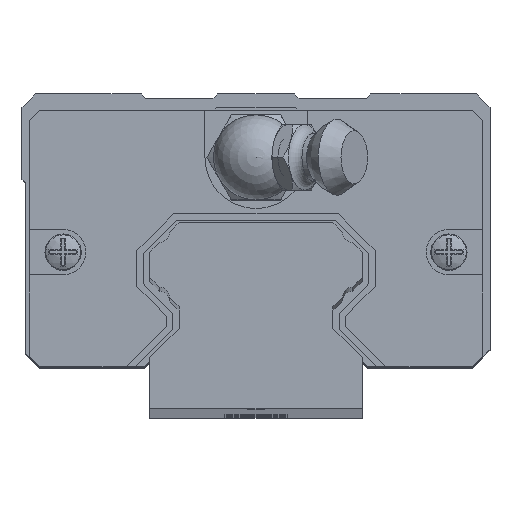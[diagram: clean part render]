
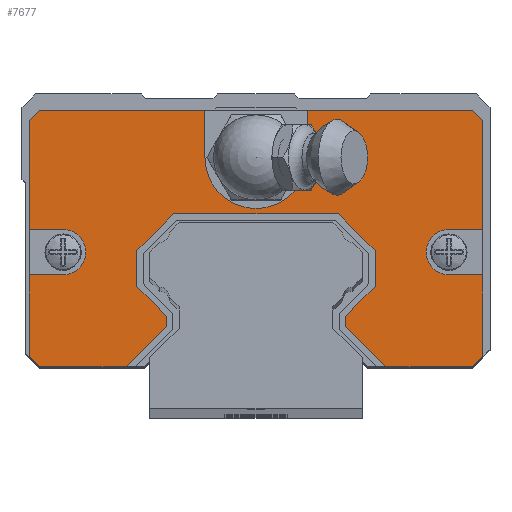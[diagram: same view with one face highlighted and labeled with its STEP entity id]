
A CAD part, top view. The second image highlights one B-rep face of the part: STEP entity #7677.
In plain terms, the highlighted planar face has unit normal (0, 0, 1).
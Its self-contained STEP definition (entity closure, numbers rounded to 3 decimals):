
#582=LINE('',#12337,#1392);
#586=LINE('',#12345,#1396);
#587=LINE('',#12347,#1397);
#588=LINE('',#12349,#1398);
#589=LINE('',#12351,#1399);
#590=LINE('',#12353,#1400);
#591=LINE('',#12355,#1401);
#592=LINE('',#12357,#1402);
#593=LINE('',#12359,#1403);
#594=LINE('',#12361,#1404);
#595=LINE('',#12363,#1405);
#596=LINE('',#12365,#1406);
#597=LINE('',#12367,#1407);
#598=LINE('',#12369,#1408);
#599=LINE('',#12371,#1409);
#600=LINE('',#12373,#1410);
#601=LINE('',#12377,#1411);
#602=LINE('',#12379,#1412);
#603=LINE('',#12381,#1413);
#604=LINE('',#12383,#1414);
#605=LINE('',#12385,#1415);
#606=LINE('',#12389,#1416);
#607=LINE('',#12391,#1417);
#608=LINE('',#12393,#1418);
#609=LINE('',#12395,#1419);
#610=LINE('',#12396,#1420);
#611=LINE('',#12398,#1421);
#612=LINE('',#12400,#1422);
#613=LINE('',#12401,#1423);
#1392=VECTOR('',#10013,1000.);
#1396=VECTOR('',#10019,1000.);
#1397=VECTOR('',#10020,1000.);
#1398=VECTOR('',#10021,1000.);
#1399=VECTOR('',#10022,1000.);
#1400=VECTOR('',#10023,1000.);
#1401=VECTOR('',#10024,1000.);
#1402=VECTOR('',#10025,1000.);
#1403=VECTOR('',#10026,1000.);
#1404=VECTOR('',#10027,1000.);
#1405=VECTOR('',#10028,1000.);
#1406=VECTOR('',#10029,1000.);
#1407=VECTOR('',#10030,1000.);
#1408=VECTOR('',#10031,1000.);
#1409=VECTOR('',#10032,1000.);
#1410=VECTOR('',#10033,1000.);
#1411=VECTOR('',#10036,1000.);
#1412=VECTOR('',#10037,1000.);
#1413=VECTOR('',#10038,1000.);
#1414=VECTOR('',#10039,1000.);
#1415=VECTOR('',#10040,1000.);
#1416=VECTOR('',#10043,1000.);
#1417=VECTOR('',#10044,1000.);
#1418=VECTOR('',#10045,1000.);
#1419=VECTOR('',#10046,1000.);
#1420=VECTOR('',#10047,1000.);
#1421=VECTOR('',#10048,1000.);
#1422=VECTOR('',#10049,1000.);
#1423=VECTOR('',#10050,1000.);
#1881=PLANE('',#8342);
#2511=FACE_OUTER_BOUND('',#3010,.T.);
#3010=EDGE_LOOP('',(#6673,#6674,#6675,#6676,#6677,#6678,#6679,#6680,#6681,
#6682,#6683,#6684,#6685,#6686,#6687,#6688,#6689,#6690,#6691,#6692,#6693,
#6694,#6695,#6696,#6697,#6698,#6699,#6700,#6701,#6702,#6703,#6704));
#3361=CIRCLE('',#8340,2.134);
#3362=CIRCLE('',#8343,2.134);
#3363=CIRCLE('',#8344,4.8);
#3930=VERTEX_POINT('',#12321);
#3931=VERTEX_POINT('',#12323);
#3936=VERTEX_POINT('',#12334);
#3937=VERTEX_POINT('',#12336);
#3940=VERTEX_POINT('',#12344);
#3941=VERTEX_POINT('',#12346);
#3942=VERTEX_POINT('',#12348);
#3943=VERTEX_POINT('',#12350);
#3944=VERTEX_POINT('',#12352);
#3945=VERTEX_POINT('',#12354);
#3946=VERTEX_POINT('',#12356);
#3947=VERTEX_POINT('',#12358);
#3948=VERTEX_POINT('',#12360);
#3949=VERTEX_POINT('',#12362);
#3950=VERTEX_POINT('',#12364);
#3951=VERTEX_POINT('',#12366);
#3952=VERTEX_POINT('',#12368);
#3953=VERTEX_POINT('',#12370);
#3954=VERTEX_POINT('',#12372);
#3955=VERTEX_POINT('',#12374);
#3956=VERTEX_POINT('',#12376);
#3957=VERTEX_POINT('',#12378);
#3958=VERTEX_POINT('',#12380);
#3959=VERTEX_POINT('',#12382);
#3960=VERTEX_POINT('',#12384);
#3961=VERTEX_POINT('',#12386);
#3962=VERTEX_POINT('',#12388);
#3963=VERTEX_POINT('',#12390);
#3964=VERTEX_POINT('',#12392);
#3965=VERTEX_POINT('',#12394);
#3966=VERTEX_POINT('',#12397);
#3967=VERTEX_POINT('',#12399);
#4889=EDGE_CURVE('',#3930,#3931,#3361,.T.);
#4895=EDGE_CURVE('',#3937,#3936,#582,.T.);
#4899=EDGE_CURVE('',#3936,#3940,#586,.T.);
#4900=EDGE_CURVE('',#3940,#3941,#587,.T.);
#4901=EDGE_CURVE('',#3941,#3942,#588,.T.);
#4902=EDGE_CURVE('',#3942,#3943,#589,.T.);
#4903=EDGE_CURVE('',#3943,#3944,#590,.T.);
#4904=EDGE_CURVE('',#3944,#3945,#591,.T.);
#4905=EDGE_CURVE('',#3945,#3946,#592,.T.);
#4906=EDGE_CURVE('',#3946,#3947,#593,.T.);
#4907=EDGE_CURVE('',#3947,#3948,#594,.T.);
#4908=EDGE_CURVE('',#3948,#3949,#595,.T.);
#4909=EDGE_CURVE('',#3949,#3950,#596,.T.);
#4910=EDGE_CURVE('',#3950,#3951,#597,.T.);
#4911=EDGE_CURVE('',#3951,#3952,#598,.T.);
#4912=EDGE_CURVE('',#3952,#3953,#599,.T.);
#4913=EDGE_CURVE('',#3953,#3954,#600,.T.);
#4914=EDGE_CURVE('',#3954,#3955,#3362,.T.);
#4915=EDGE_CURVE('',#3955,#3956,#601,.T.);
#4916=EDGE_CURVE('',#3956,#3957,#602,.T.);
#4917=EDGE_CURVE('',#3957,#3958,#603,.T.);
#4918=EDGE_CURVE('',#3958,#3959,#604,.T.);
#4919=EDGE_CURVE('',#3959,#3960,#605,.T.);
#4920=EDGE_CURVE('',#3960,#3961,#3363,.T.);
#4921=EDGE_CURVE('',#3961,#3962,#606,.T.);
#4922=EDGE_CURVE('',#3962,#3963,#607,.T.);
#4923=EDGE_CURVE('',#3963,#3964,#608,.T.);
#4924=EDGE_CURVE('',#3964,#3965,#609,.T.);
#4925=EDGE_CURVE('',#3965,#3931,#610,.T.);
#4926=EDGE_CURVE('',#3930,#3966,#611,.T.);
#4927=EDGE_CURVE('',#3966,#3967,#612,.T.);
#4928=EDGE_CURVE('',#3967,#3937,#613,.T.);
#6673=ORIENTED_EDGE('',*,*,#4899,.T.);
#6674=ORIENTED_EDGE('',*,*,#4900,.T.);
#6675=ORIENTED_EDGE('',*,*,#4901,.T.);
#6676=ORIENTED_EDGE('',*,*,#4902,.T.);
#6677=ORIENTED_EDGE('',*,*,#4903,.T.);
#6678=ORIENTED_EDGE('',*,*,#4904,.T.);
#6679=ORIENTED_EDGE('',*,*,#4905,.T.);
#6680=ORIENTED_EDGE('',*,*,#4906,.T.);
#6681=ORIENTED_EDGE('',*,*,#4907,.T.);
#6682=ORIENTED_EDGE('',*,*,#4908,.T.);
#6683=ORIENTED_EDGE('',*,*,#4909,.T.);
#6684=ORIENTED_EDGE('',*,*,#4910,.T.);
#6685=ORIENTED_EDGE('',*,*,#4911,.T.);
#6686=ORIENTED_EDGE('',*,*,#4912,.T.);
#6687=ORIENTED_EDGE('',*,*,#4913,.T.);
#6688=ORIENTED_EDGE('',*,*,#4914,.T.);
#6689=ORIENTED_EDGE('',*,*,#4915,.T.);
#6690=ORIENTED_EDGE('',*,*,#4916,.T.);
#6691=ORIENTED_EDGE('',*,*,#4917,.T.);
#6692=ORIENTED_EDGE('',*,*,#4918,.T.);
#6693=ORIENTED_EDGE('',*,*,#4919,.T.);
#6694=ORIENTED_EDGE('',*,*,#4920,.T.);
#6695=ORIENTED_EDGE('',*,*,#4921,.T.);
#6696=ORIENTED_EDGE('',*,*,#4922,.T.);
#6697=ORIENTED_EDGE('',*,*,#4923,.T.);
#6698=ORIENTED_EDGE('',*,*,#4924,.T.);
#6699=ORIENTED_EDGE('',*,*,#4925,.T.);
#6700=ORIENTED_EDGE('',*,*,#4889,.F.);
#6701=ORIENTED_EDGE('',*,*,#4926,.T.);
#6702=ORIENTED_EDGE('',*,*,#4927,.T.);
#6703=ORIENTED_EDGE('',*,*,#4928,.T.);
#6704=ORIENTED_EDGE('',*,*,#4895,.T.);
#7677=ADVANCED_FACE('',(#2511),#1881,.F.);
#8340=AXIS2_PLACEMENT_3D('',#12324,#10004,#10005);
#8342=AXIS2_PLACEMENT_3D('',#12343,#10017,#10018);
#8343=AXIS2_PLACEMENT_3D('',#12375,#10034,#10035);
#8344=AXIS2_PLACEMENT_3D('',#12387,#10041,#10042);
#10004=DIRECTION('center_axis',(0.,0.,1.));
#10005=DIRECTION('ref_axis',(1.,0.,0.));
#10013=DIRECTION('',(1.,0.,0.));
#10017=DIRECTION('center_axis',(0.,0.,-1.));
#10018=DIRECTION('ref_axis',(-1.,0.,0.));
#10019=DIRECTION('',(0.707,0.707,0.));
#10020=DIRECTION('',(0.,1.,0.));
#10021=DIRECTION('',(-0.707,0.707,0.));
#10022=DIRECTION('',(0.,1.,0.));
#10023=DIRECTION('',(0.707,0.707,0.));
#10024=DIRECTION('',(1.,0.,0.));
#10025=DIRECTION('',(0.707,-0.707,0.));
#10026=DIRECTION('',(0.,-1.,0.));
#10027=DIRECTION('',(-0.707,-0.707,0.));
#10028=DIRECTION('',(0.,-1.,0.));
#10029=DIRECTION('',(0.707,-0.707,0.));
#10030=DIRECTION('',(1.,0.,0.));
#10031=DIRECTION('',(0.707,0.707,0.));
#10032=DIRECTION('',(0.,1.,0.));
#10033=DIRECTION('',(-1.,0.,0.));
#10034=DIRECTION('center_axis',(0.,0.,-1.));
#10035=DIRECTION('ref_axis',(-1.,0.,0.));
#10036=DIRECTION('',(1.,0.,0.));
#10037=DIRECTION('',(0.,1.,0.));
#10038=DIRECTION('',(-0.707,0.707,0.));
#10039=DIRECTION('',(-1.,0.,0.));
#10040=DIRECTION('',(0.,-1.,0.));
#10041=DIRECTION('center_axis',(0.,0.,-1.));
#10042=DIRECTION('ref_axis',(-1.,0.,0.));
#10043=DIRECTION('',(0.,1.,0.));
#10044=DIRECTION('',(-1.,0.,0.));
#10045=DIRECTION('',(-0.707,-0.707,0.));
#10046=DIRECTION('',(0.,-1.,0.));
#10047=DIRECTION('',(1.,0.,0.));
#10048=DIRECTION('',(-1.,0.,0.));
#10049=DIRECTION('',(0.,-1.,0.));
#10050=DIRECTION('',(0.707,-0.707,0.));
#12321=CARTESIAN_POINT('',(-18.139,8.666,38.35));
#12323=CARTESIAN_POINT('',(-18.139,12.934,38.35));
#12324=CARTESIAN_POINT('Origin',(-18.139,10.8,38.35));
#12334=CARTESIAN_POINT('',(-12.197,0.,38.35));
#12336=CARTESIAN_POINT('',(-20.375,0.,38.35));
#12337=CARTESIAN_POINT('',(-20.375,0.,38.35));
#12343=CARTESIAN_POINT('Origin',(0.,-20.375,
38.35));
#12344=CARTESIAN_POINT('',(-8.428,3.769,38.35));
#12345=CARTESIAN_POINT('',(-12.197,0.,38.35));
#12346=CARTESIAN_POINT('',(-8.428,4.783,38.35));
#12347=CARTESIAN_POINT('',(-8.428,3.769,38.35));
#12348=CARTESIAN_POINT('',(-11.2,7.555,38.35));
#12349=CARTESIAN_POINT('',(-8.428,4.783,38.35));
#12350=CARTESIAN_POINT('',(-11.2,10.925,38.35));
#12351=CARTESIAN_POINT('',(-11.2,7.555,38.35));
#12352=CARTESIAN_POINT('',(-7.725,14.4,38.35));
#12353=CARTESIAN_POINT('',(-11.2,10.925,38.35));
#12354=CARTESIAN_POINT('',(7.725,14.4,38.35));
#12355=CARTESIAN_POINT('',(-7.725,14.4,38.35));
#12356=CARTESIAN_POINT('',(11.2,10.925,38.35));
#12357=CARTESIAN_POINT('',(11.2,10.925,38.35));
#12358=CARTESIAN_POINT('',(11.2,7.555,38.35));
#12359=CARTESIAN_POINT('',(11.2,7.555,38.35));
#12360=CARTESIAN_POINT('',(8.428,4.783,38.35));
#12361=CARTESIAN_POINT('',(8.428,4.783,38.35));
#12362=CARTESIAN_POINT('',(8.428,3.769,38.35));
#12363=CARTESIAN_POINT('',(8.428,3.769,38.35));
#12364=CARTESIAN_POINT('',(12.197,0.,38.35));
#12365=CARTESIAN_POINT('',(12.197,0.,38.35));
#12366=CARTESIAN_POINT('',(20.375,0.,38.35));
#12367=CARTESIAN_POINT('',(-20.375,0.,38.35));
#12368=CARTESIAN_POINT('',(21.34,0.965,38.35));
#12369=CARTESIAN_POINT('',(21.34,0.965,38.35));
#12370=CARTESIAN_POINT('',(21.34,8.666,38.35));
#12371=CARTESIAN_POINT('',(21.34,0.965,38.35));
#12372=CARTESIAN_POINT('',(18.139,8.666,38.35));
#12373=CARTESIAN_POINT('',(21.34,8.666,38.35));
#12374=CARTESIAN_POINT('',(18.139,12.934,38.35));
#12375=CARTESIAN_POINT('Origin',(18.139,10.8,38.35));
#12376=CARTESIAN_POINT('',(21.34,12.934,38.35));
#12377=CARTESIAN_POINT('',(18.139,12.934,38.35));
#12378=CARTESIAN_POINT('',(21.34,23.193,38.35));
#12379=CARTESIAN_POINT('',(21.34,0.965,38.35));
#12380=CARTESIAN_POINT('',(20.375,24.158,38.35));
#12381=CARTESIAN_POINT('',(21.34,23.193,38.35));
#12382=CARTESIAN_POINT('',(4.8,24.158,38.35));
#12383=CARTESIAN_POINT('',(-20.375,24.158,38.35));
#12384=CARTESIAN_POINT('',(4.8,19.7,38.35));
#12385=CARTESIAN_POINT('',(4.8,19.7,38.35));
#12386=CARTESIAN_POINT('',(-4.8,19.7,38.35));
#12387=CARTESIAN_POINT('Origin',(0.,19.7,38.35));
#12388=CARTESIAN_POINT('',(-4.8,24.158,38.35));
#12389=CARTESIAN_POINT('',(-4.8,24.158,38.35));
#12390=CARTESIAN_POINT('',(-20.375,24.158,38.35));
#12391=CARTESIAN_POINT('',(-20.375,24.158,38.35));
#12392=CARTESIAN_POINT('',(-21.34,23.193,38.35));
#12393=CARTESIAN_POINT('',(-21.34,23.193,38.35));
#12394=CARTESIAN_POINT('',(-21.34,12.934,38.35));
#12395=CARTESIAN_POINT('',(-21.34,0.965,38.35));
#12396=CARTESIAN_POINT('',(-18.139,12.934,38.35));
#12397=CARTESIAN_POINT('',(-21.34,8.666,38.35));
#12398=CARTESIAN_POINT('',(-21.34,8.666,38.35));
#12399=CARTESIAN_POINT('',(-21.34,0.965,38.35));
#12400=CARTESIAN_POINT('',(-21.34,0.965,38.35));
#12401=CARTESIAN_POINT('',(-21.34,0.965,38.35));
